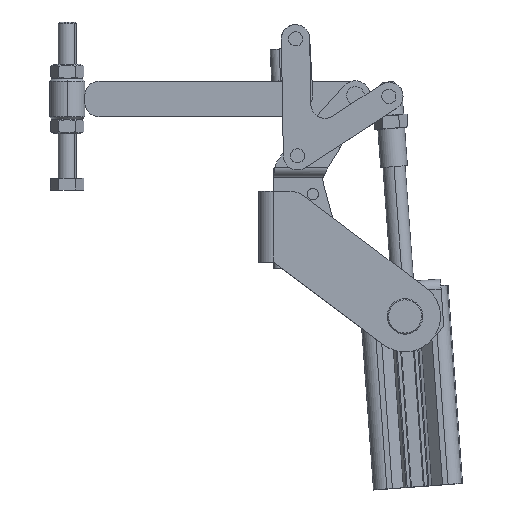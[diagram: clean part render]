
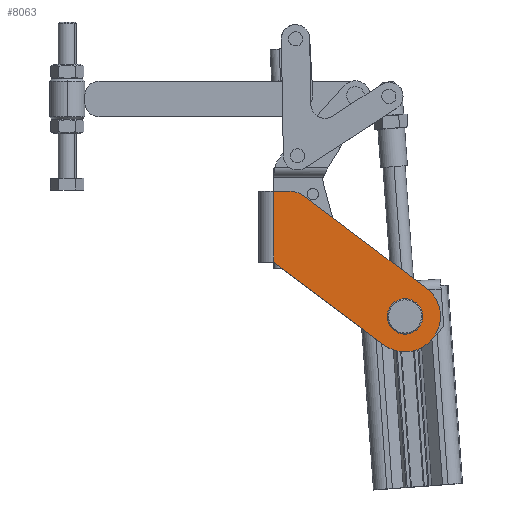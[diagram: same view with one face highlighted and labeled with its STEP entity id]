
A CAD part, top view. The second image highlights one B-rep face of the part: STEP entity #8063.
In plain terms, the highlighted planar face has unit normal (0, 0, 1) as drawn and (1, 0, 0) by its records, which use the part's own axes.
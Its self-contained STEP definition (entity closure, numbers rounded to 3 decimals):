
#234 = VECTOR ( 'NONE', #19497, 1000. ) ;
#270 = VERTEX_POINT ( 'NONE', #16753 ) ;
#444 = VERTEX_POINT ( 'NONE', #3398 ) ;
#524 = ORIENTED_EDGE ( 'NONE', *, *, #18146, .T. ) ;
#652 = CARTESIAN_POINT ( 'NONE',  ( 31., 15.875, -80. ) ) ;
#1102 = FACE_OUTER_BOUND ( 'NONE', #14888, .T. ) ;
#1155 = CARTESIAN_POINT ( 'NONE',  ( 31., -52.934, -56.043 ) ) ;
#1609 = DIRECTION ( 'NONE',  ( -1., 0., 0. ) ) ;
#1665 = DIRECTION ( 'NONE',  ( 0., 0., -1. ) ) ;
#1709 = EDGE_CURVE ( 'NONE', #6852, #11228, #4852, .T. ) ;
#1717 = CARTESIAN_POINT ( 'NONE',  ( 31., -40.245, -65.583 ) ) ;
#2049 = VERTEX_POINT ( 'NONE', #17369 ) ;
#2112 = ORIENTED_EDGE ( 'NONE', *, *, #9934, .T. ) ;
#2714 = PLANE ( 'NONE',  #17036 ) ;
#3190 = VERTEX_POINT ( 'NONE', #14813 ) ;
#3398 = CARTESIAN_POINT ( 'NONE',  ( 31., -27.556, -75.122 ) ) ;
#3743 = DIRECTION ( 'NONE',  ( 0., 0., -1. ) ) ;
#4084 = DIRECTION ( 'NONE',  ( 1., 0., 0. ) ) ;
#4095 = AXIS2_PLACEMENT_3D ( 'NONE', #6512, #10572, #19884 ) ;
#4232 = DIRECTION ( 'NONE',  ( 0., -1., 0. ) ) ;
#4852 = LINE ( 'NONE', #12973, #5396 ) ;
#5396 = VECTOR ( 'NONE', #4232, 1000. ) ;
#5482 = CARTESIAN_POINT ( 'NONE',  ( 31., -40.245, -59.533 ) ) ;
#5760 = FACE_BOUND ( 'NONE', #15527, .T. ) ;
#5851 = ORIENTED_EDGE ( 'NONE', *, *, #1709, .T. ) ;
#6005 = VECTOR ( 'NONE', #22084, 1000. ) ;
#6512 = CARTESIAN_POINT ( 'NONE',  ( 31., -40.245, -65.583 ) ) ;
#6605 = CARTESIAN_POINT ( 'NONE',  ( 31., -15.875, -6.75 ) ) ;
#6852 = VERTEX_POINT ( 'NONE', #11964 ) ;
#7238 = DIRECTION ( 'NONE',  ( 0., 0., -1. ) ) ;
#7619 = CIRCLE ( 'NONE', #11836, 6.05 ) ;
#7770 = DIRECTION ( 'NONE',  ( 0., 0., -1. ) ) ;
#7845 = CARTESIAN_POINT ( 'NONE',  ( 31., 5.875, -14.014 ) ) ;
#8063 = ADVANCED_FACE ( 'NONE', ( #1102, #5760 ), #2714, .T. ) ;
#8529 = ORIENTED_EDGE ( 'NONE', *, *, #20712, .F. ) ;
#8919 = EDGE_CURVE ( 'NONE', #270, #6852, #10158, .T. ) ;
#9357 = CARTESIAN_POINT ( 'NONE',  ( 31., -15.875, -6.75 ) ) ;
#9698 = LINE ( 'NONE', #9357, #18547 ) ;
#9795 = ORIENTED_EDGE ( 'NONE', *, *, #11375, .F. ) ;
#9934 = EDGE_CURVE ( 'NONE', #21391, #270, #11543, .T. ) ;
#10028 = EDGE_CURVE ( 'NONE', #13663, #2049, #15121, .T. ) ;
#10158 = LINE ( 'NONE', #15178, #234 ) ;
#10572 = DIRECTION ( 'NONE',  ( -1., 0., 0. ) ) ;
#11228 = VERTEX_POINT ( 'NONE', #6605 ) ;
#11375 = EDGE_CURVE ( 'NONE', #3190, #12043, #22015, .T. ) ;
#11543 = CIRCLE ( 'NONE', #18719, 10. ) ;
#11836 = AXIS2_PLACEMENT_3D ( 'NONE', #22754, #12206, #1665 ) ;
#11964 = CARTESIAN_POINT ( 'NONE',  ( 31., 15.875, -6.75 ) ) ;
#12043 = VERTEX_POINT ( 'NONE', #1155 ) ;
#12150 = CARTESIAN_POINT ( 'NONE',  ( 31., -40.245, -65.583 ) ) ;
#12206 = DIRECTION ( 'NONE',  ( -1., 0., 0. ) ) ;
#12211 = EDGE_CURVE ( 'NONE', #2049, #13663, #7619, .T. ) ;
#12246 = DIRECTION ( 'NONE',  ( -1., 0., 0. ) ) ;
#12973 = CARTESIAN_POINT ( 'NONE',  ( 31., 15.875, -6.75 ) ) ;
#13390 = ORIENTED_EDGE ( 'NONE', *, *, #8919, .T. ) ;
#13663 = VERTEX_POINT ( 'NONE', #5482 ) ;
#13911 = DIRECTION ( 'NONE',  ( 0., 0., -1. ) ) ;
#14813 = CARTESIAN_POINT ( 'NONE',  ( 31., -40.245, -81.458 ) ) ;
#14888 = EDGE_LOOP ( 'NONE', ( #8529, #2112, #13390, #5851, #524, #9795, #19983 ) ) ;
#15015 = DIRECTION ( 'NONE',  ( 1., 0., 0. ) ) ;
#15121 = CIRCLE ( 'NONE', #4095, 6.05 ) ;
#15178 = CARTESIAN_POINT ( 'NONE',  ( 31., 15.875, -80. ) ) ;
#15527 = EDGE_LOOP ( 'NONE', ( #21536, #17181 ) ) ;
#16674 = AXIS2_PLACEMENT_3D ( 'NONE', #1717, #12246, #7238 ) ;
#16753 = CARTESIAN_POINT ( 'NONE',  ( 31., 15.875, -14.014 ) ) ;
#16976 = EDGE_CURVE ( 'NONE', #444, #3190, #19061, .T. ) ;
#17036 = AXIS2_PLACEMENT_3D ( 'NONE', #652, #15015, #7770 ) ;
#17181 = ORIENTED_EDGE ( 'NONE', *, *, #12211, .T. ) ;
#17369 = CARTESIAN_POINT ( 'NONE',  ( 31., -40.245, -71.633 ) ) ;
#18146 = EDGE_CURVE ( 'NONE', #11228, #12043, #9698, .T. ) ;
#18547 = VECTOR ( 'NONE', #19912, 1000. ) ;
#18719 = AXIS2_PLACEMENT_3D ( 'NONE', #7845, #4084, #3743 ) ;
#18768 = CARTESIAN_POINT ( 'NONE',  ( 31., 13.868, -20.023 ) ) ;
#19061 = CIRCLE ( 'NONE', #19883, 15.875 ) ;
#19497 = DIRECTION ( 'NONE',  ( 0., 0., 1. ) ) ;
#19883 = AXIS2_PLACEMENT_3D ( 'NONE', #12150, #1609, #13911 ) ;
#19884 = DIRECTION ( 'NONE',  ( 0., 0., -1. ) ) ;
#19912 = DIRECTION ( 'NONE',  ( 0., -0.601, -0.799 ) ) ;
#19983 = ORIENTED_EDGE ( 'NONE', *, *, #16976, .F. ) ;
#20082 = LINE ( 'NONE', #20313, #6005 ) ;
#20313 = CARTESIAN_POINT ( 'NONE',  ( 31., -14.215, -57.378 ) ) ;
#20712 = EDGE_CURVE ( 'NONE', #21391, #444, #20082, .T. ) ;
#21391 = VERTEX_POINT ( 'NONE', #18768 ) ;
#21536 = ORIENTED_EDGE ( 'NONE', *, *, #10028, .T. ) ;
#22015 = CIRCLE ( 'NONE', #16674, 15.875 ) ;
#22084 = DIRECTION ( 'NONE',  ( 0., -0.601, -0.799 ) ) ;
#22754 = CARTESIAN_POINT ( 'NONE',  ( 31., -40.245, -65.583 ) ) ;
